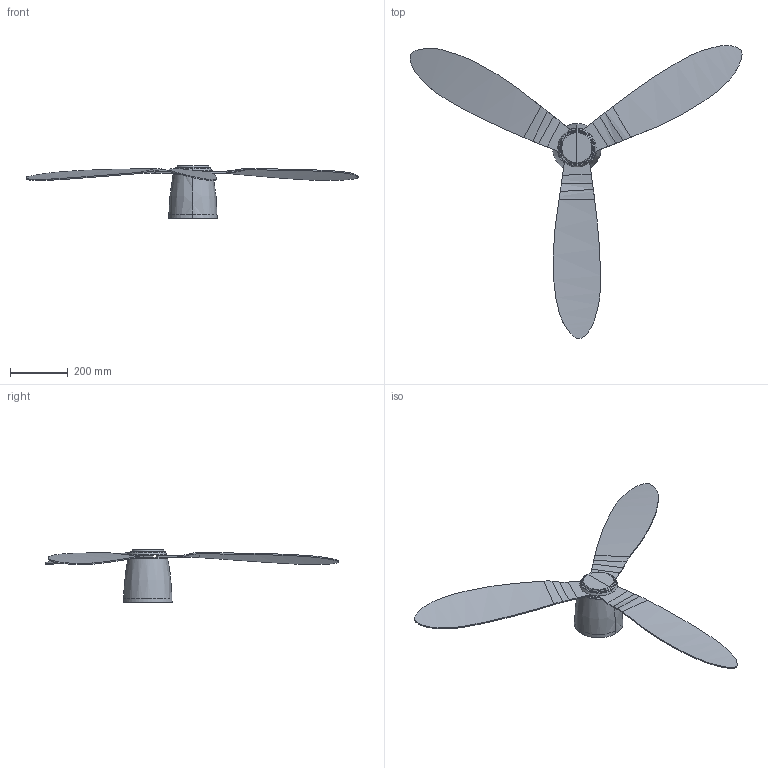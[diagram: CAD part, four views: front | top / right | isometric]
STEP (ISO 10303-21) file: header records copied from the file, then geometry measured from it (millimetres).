
FILE_DESCRIPTION(/* description */ (''),/* implementation_level */ '2;1');
FILE_NAME(/* name */ 'C:\Users\FrancoSartori\Documents\FARO\01_En Proceso\00_NIAS\03_Publicación\33472N.stp',/* time_stamp */ '2021-07-13T11:52:02+02:00',/* author */ ('FrancoSartori'),/* organization */ (''),/* preprocessor_version */ 'ST-DEVELOPER v18.1',/* originating_system */ 'AutoCAD Mechanical',/* authorisation */ '');
FILE_SCHEMA (('AUTOMOTIVE_DESIGN { 1 0 10303 214 3 1 1 }'));
Length unit declared in the file: millimetre
Products named in the file (2): Product; 33472N_ - fan-493030-Export
Assembly tree (1 placements, depth 2):
  Product
    33472N_ - fan-493030-Export
Bounding box: 1149 x 1013.46 x 182.99 mm (x, y, z)
Volume: 4162508.1 mm3; surface area: 696329.6 mm2
Topology: 6 solids, 6 shells, 173 faces, 461 edges, 302 vertices
Faces by surface type: cylinder 84, plane 43, bspline 26, torus 14, cone 6
Entity records: 6832 total; most frequent: CARTESIAN_POINT 2957, ORIENTED_EDGE 922, DIRECTION 587, EDGE_CURVE 461, VERTEX_POINT 302, B_SPLINE_CURVE_WITH_KNOTS 238, AXIS2_PLACEMENT_3D 214, EDGE_LOOP 175
